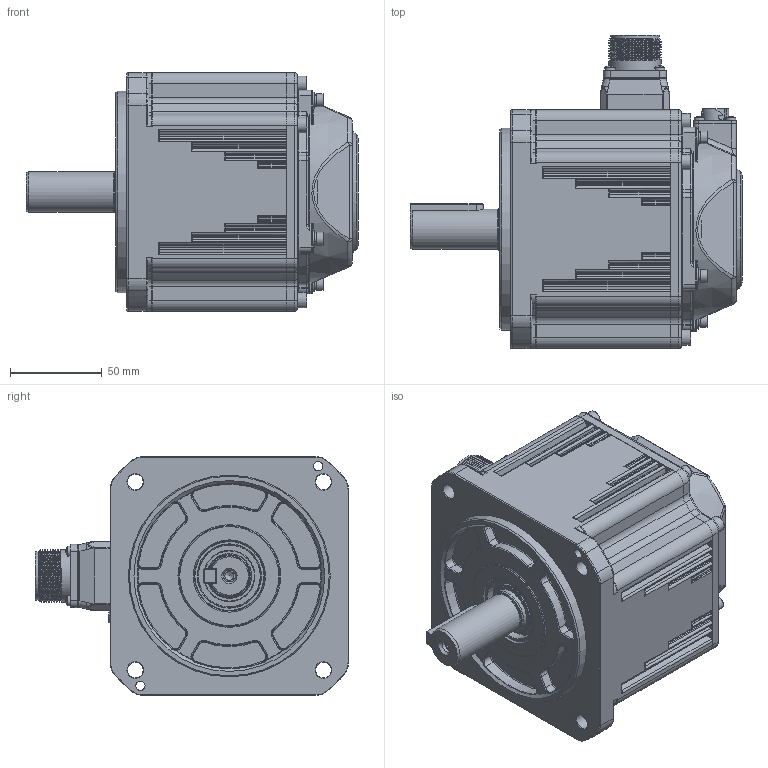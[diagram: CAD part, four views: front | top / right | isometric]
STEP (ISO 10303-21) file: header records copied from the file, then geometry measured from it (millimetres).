
FILE_DESCRIPTION (( 'STEP AP203' ), '1' );
FILE_NAME ('俋倛芞ACM2M-1309.STEP', '2023-01-10T03:56:02', ( '' ), ( '' ), 'SwSTEP 2.0', 'SolidWorks 2021', '' );
FILE_SCHEMA (( 'CONFIG_CONTROL_DESIGN' ));
Length unit declared in the file: millimetre
Products named in the file (12): 130后端盖 卡簧式 高30.9 ADC12 LM RoHS_加工; C型平键8×7×45螺纹拆卸型; 航插动力接插件 4芯 SZ RoHS; 萇埭脣釱蹟隊_M3℅10; ﾓﾍｷ筌ｻTC｣ｻ24｡ﾁ38｡ﾁ7｣ｻSOG; 130蛌粣09-XX 粣扥耳22 40Cr DC RoHS_LX晤鎢ん; 130航插安装座密封垫 38.6×36.6×1.35 NBR HA70 RoHS; 130前端盖0.85、1.3、1.8_成品-0.85; 2M-编码盖+插座+螺钉; 俋倛芞ACM2M-1309; 130瑤脣假蚾釱; 綴傷裔蹟隊_M5℅20
Assembly tree (17 placements, depth 2):
  俋倛芞ACM2M-1309
    130前端盖0.85、1.3、1.8_成品-0.85
    130蛌粣09-XX 粣扥耳22 40Cr DC RoHS_LX晤鎢ん
    130后端盖 卡簧式 高30.9 ADC12 LM RoHS_加工
    綴傷裔蹟隊_M5℅20  x4
    130瑤脣假蚾釱
    130航插安装座密封垫 38.6×36.6×1.35 NBR HA70 RoHS
    航插动力接插件 4芯 SZ RoHS
    萇埭脣釱蹟隊_M3℅10  x4
    ﾓﾍｷ筌ｻTC｣ｻ24｡ﾁ38｡ﾁ7｣ｻSOG
    C型平键8×7×45螺纹拆卸型
    2M-编码盖+插座+螺钉
Bounding box: 181 x 170.7 x 130 mm (x, y, z)
Volume: 1991302.6 mm3; surface area: 212925.3 mm2
Topology: 36 solids, 43 shells, 2908 faces, 7542 edges, 4767 vertices
Faces by surface type: plane 1355, cylinder 791, torus 374, bspline 282, cone 81, sphere 25
Full cylindrical faces by diameter (mm): 0.75 x10, 1.007 x10, 1.5 x9, 2 x1, 2.2 x2, 2.4 x4, 2.48 x4, 2.5 x8, 2.598 x8, 2.6 x2, 3 x9, 3.08 x1, 3.2 x12, 3.3 x5, 3.5 x4, 3.7 x4, 3.9 x4, 4 x4, 4.2 x4, 4.5 x8, 5 x7, 5.5 x4, 5.6 x8, 6.4 x1, 7 x4, 8.5 x8, 9 x4, 11.8 x1, 13 x1, 13.2 x1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
Entity records: 112504 total; most frequent: CARTESIAN_POINT 47948, ORIENTED_EDGE 13398, DIRECTION 12273, EDGE_CURVE 6699, AXIS2_PLACEMENT_3D 4544, VERTEX_POINT 4429, EDGE_LOOP 3294, VECTOR 3185
